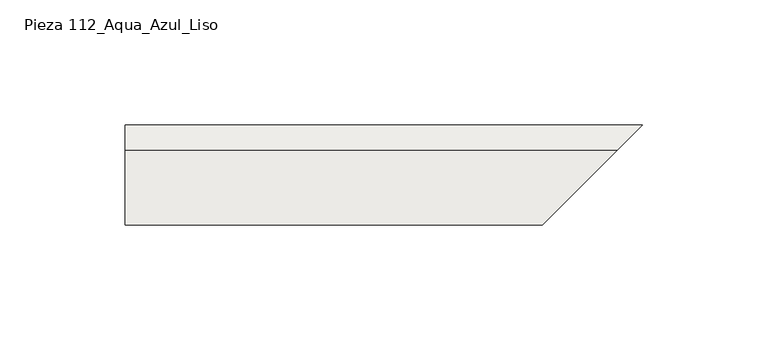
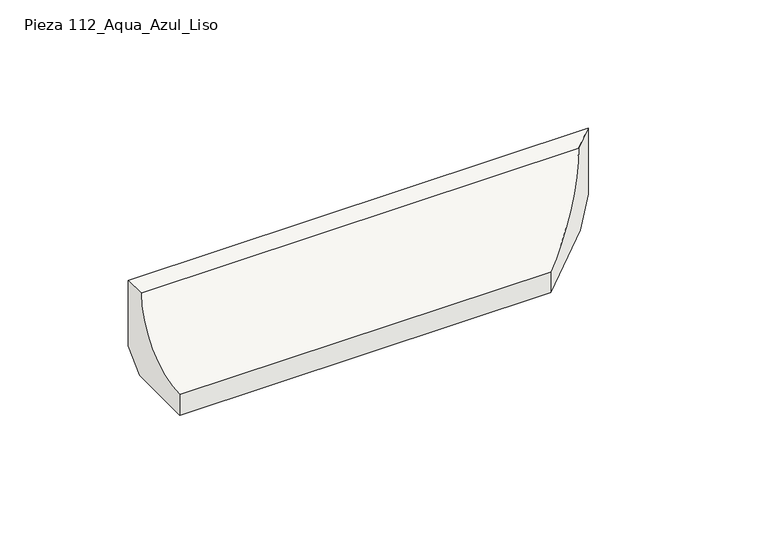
"""IFC4 building model written with IfcOpenShell, lengths in millimetres: slab geometry, ROSA GRES_112 (corte) : Pieza 112_Aqua_Azul_Liso."""

import ifcopenshell
import ifcopenshell.guid

model = None  # the IFC model being written
_history = None  # IfcOwnerHistory: only IFC2X3 demands one
_inside = {}  # id of a spatial element -> (the spatial element, [elements in it])
_under = {}  # id of a project, library or spatial element -> (it, [spatial elements below it])
_declared = {}  # id of a project -> (the project, [libraries it declares])
_typed = {}  # id of a type object -> (the type object, [elements of that type])
_made_of = {}  # id of a material, layer set ... -> (it, [elements and type objects made of it])


def new_model(schema):
    """Start an empty IFC model of exactly this schema.

    Asked for "IFC4X3", IfcOpenShell would pick the latest addendum, in which some entities
    have other attributes; the version numbers below select the first issue.
    IFC2X3 requires an IfcOwnerHistory on every rooted entity: one is made here for all.
    """
    global model, _history
    if schema == "IFC4X3":
        model = ifcopenshell.file(schema_version=(4, 3, 0, 0))
    else:
        model = ifcopenshell.file(schema=schema)
    _inside.clear()
    _under.clear()
    _declared.clear()
    _typed.clear()
    _made_of.clear()
    _history = None
    if model.schema == "IFC2X3":
        org = make("IfcOrganization", Name="unknown")
        user = make(
            "IfcPersonAndOrganization",
            ThePerson=make("IfcPerson", FamilyName="unknown"),
            TheOrganization=org,
        )
        app = make(
            "IfcApplication",
            ApplicationDeveloper=org,
            Version="unknown",
            ApplicationFullName="unknown",
            ApplicationIdentifier="unknown",
        )
        _history = make(
            "IfcOwnerHistory",
            OwningUser=user,
            OwningApplication=app,
            ChangeAction="ADDED",
            CreationDate=0,
        )
    return model


def make(cls, **values):
    """One entity of the class cls with the attributes given. An attribute that is None is left unset."""
    return model.create_entity(
        cls, **{name: value for name, value in values.items() if value is not None}
    )


def rooted(cls, **values):
    """An entity with a GlobalId (a new one), such as an element, a storey or a relation."""
    return make(cls, GlobalId=ifcopenshell.guid.new(), OwnerHistory=_history, **values)


def si_unit(unit_type, name, prefix=None):
    """IfcSIUnit, for example si_unit("LENGTHUNIT", "METRE", prefix="MILLI")."""
    return make("IfcSIUnit", UnitType=unit_type, Prefix=prefix, Name=name)


def assignment(units):
    """IfcUnitAssignment: the units of a project."""
    return None if units is None else make("IfcUnitAssignment", Units=units)


def point(xyz):
    """IfcCartesianPoint."""
    return None if xyz is None else make("IfcCartesianPoint", Coordinates=xyz)


def direction(xyz):
    """IfcDirection."""
    return None if xyz is None else make("IfcDirection", DirectionRatios=xyz)


def frame(location, z_axis=None, x_axis=None):
    """IfcAxis2Placement3D, a coordinate frame: its origin and axes. An axis left out is left unset."""
    return make(
        "IfcAxis2Placement3D",
        Location=point(location),
        Axis=direction(z_axis),
        RefDirection=direction(x_axis),
    )


def origin():
    """The frame at (0, 0, 0) with its axes left unset."""
    return frame((0.0, 0.0, 0.0))


def place(relative_to, where):
    """IfcLocalPlacement: puts the frame where relative to a parent placement (None: the world)."""
    return make(
        "IfcLocalPlacement", PlacementRelTo=relative_to, RelativePlacement=where
    )


def context(
    kind, dimensions, precision=None, world=None, true_north=None, identifier=None
):
    """IfcGeometricRepresentationContext, for example the 3D "Model" context."""
    return make(
        "IfcGeometricRepresentationContext",
        ContextIdentifier=identifier,
        ContextType=kind,
        CoordinateSpaceDimension=dimensions,
        Precision=precision,
        WorldCoordinateSystem=world,
        TrueNorth=true_north,
    )


def project(units=None, contexts=None):
    """IfcProject with its units and contexts."""
    return rooted(
        "IfcProject",
        Name="project",
        RepresentationContexts=contexts,
        UnitsInContext=assignment(units),
    )


def spatial(cls, under=None, at=None, **own):
    """A site, building, storey or space (cls), placed at a placement, below another one or the project."""
    s = rooted(cls, ObjectPlacement=at, **own)
    if under is not None:
        _under.setdefault(under.id(), (under, []))[1].append(s)
    return s


def polyline(points):
    """IfcPolyline through the points."""
    return make("IfcPolyline", Points=[point(p) for p in points])


def circle_curve(where, radius):
    """IfcCircle in the frame where."""
    return make("IfcCircle", Position=where, Radius=radius)


def ellipse_curve(where, semi_axis1, semi_axis2):
    """IfcEllipse in the frame where."""
    return make(
        "IfcEllipse", Position=where, SemiAxis1=semi_axis1, SemiAxis2=semi_axis2
    )


def shape(context_of_items, identifier, shape_type, items):
    """IfcShapeRepresentation: the items that make up one representation, for example the "Body"."""
    return make(
        "IfcShapeRepresentation",
        ContextOfItems=context_of_items,
        RepresentationIdentifier=identifier,
        RepresentationType=shape_type,
        Items=items,
    )


def source(mapping_origin, context_of_items, identifier, shape_type, items):
    """IfcRepresentationMap: a shape defined once, which mapped items show again and again."""
    return make(
        "IfcRepresentationMap",
        MappingOrigin=mapping_origin,
        MappedRepresentation=shape(context_of_items, identifier, shape_type, items),
    )


def transform(
    local_origin,
    x_axis=None,
    y_axis=None,
    z_axis=None,
    scale=None,
    scale2=None,
    scale3=None,
    uniform=True,
):
    """IfcCartesianTransformationOperator3D, or its non-uniform kind. x_axis, y_axis, z_axis: its Axis1, 2, 3."""
    if uniform:
        return make(
            "IfcCartesianTransformationOperator3D",
            Axis1=direction(x_axis),
            Axis2=direction(y_axis),
            LocalOrigin=point(local_origin),
            Scale=scale,
            Axis3=direction(z_axis),
        )
    return make(
        "IfcCartesianTransformationOperator3DnonUniform",
        Axis1=direction(x_axis),
        Axis2=direction(y_axis),
        LocalOrigin=point(local_origin),
        Scale=scale,
        Axis3=direction(z_axis),
        Scale2=scale2,
        Scale3=scale3,
    )


def mapped(mapping_source, mapping_target):
    """IfcMappedItem: shows the shape of a source again, moved by a transform."""
    return make(
        "IfcMappedItem", MappingSource=mapping_source, MappingTarget=mapping_target
    )


def made_of(thing, what):
    """Note that an element or type object is made of a material, layer set ...; save() writes the relation."""
    if what is not None:
        _made_of.setdefault(what.id(), (what, []))[1].append(thing)
    return thing


def element(
    cls,
    number,
    at=None,
    inside=None,
    cuts=None,
    type_object=None,
    material=None,
    context=None,
    identifier="Body",
    shape_type=None,
    held_by="IfcProductDefinitionShape",
    body=None,
    shapes=None,
    **own,
):
    """One element of the class cls, such as IfcWall. Its Tag is "e" and its number.

    at: its placement. inside: the storey or other place that contains it. cuts: it is an
    opening in that element (IfcRelVoidsElement). A single representation is given by context,
    identifier, shape_type and body (its items); several are given by shapes. held_by: the class
    of the entity that holds the representations. save() writes the other relations.
    """
    e = rooted(cls, Tag="e%d" % number, ObjectPlacement=at, **own)
    if body is not None:
        shapes = [shape(context, identifier, shape_type, body)]
    if shapes is not None:
        e.Representation = make(held_by, Representations=shapes)
    if inside is not None:
        _inside.setdefault(inside.id(), (inside, []))[1].append(e)
    if cuts is not None:
        rooted(
            "IfcRelVoidsElement", RelatingBuildingElement=cuts, RelatedOpeningElement=e
        )
    if type_object is not None:
        _typed.setdefault(type_object.id(), (type_object, []))[1].append(e)
    return made_of(e, material)


def aggregate(whole, parts):
    """IfcRelAggregates: a whole, such as a stair, and the parts it consists of."""
    return rooted("IfcRelAggregates", RelatingObject=whole, RelatedObjects=parts)


def save(model, path):
    """Write the relations noted so far, then the file.

    IfcRelAggregates (storeys below a building ...), IfcRelContainedInSpatialStructure (elements
    in a storey), IfcRelDefinesByType, IfcRelAssociatesMaterial and IfcRelDeclares: one each for
    every whole, place, type object, material and project.
    """
    for whole, parts in _under.values():
        aggregate(whole, parts)
    for where, things in _inside.values():
        rooted(
            "IfcRelContainedInSpatialStructure",
            RelatedElements=things,
            RelatingStructure=where,
        )
    for kind, things in _typed.values():
        rooted("IfcRelDefinesByType", RelatedObjects=things, RelatingType=kind)
    for what, things in _made_of.values():
        rooted("IfcRelAssociatesMaterial", RelatedObjects=things, RelatingMaterial=what)
    for by, libraries in _declared.values():
        rooted("IfcRelDeclares", RelatingContext=by, RelatedDefinitions=libraries)
    model.write(path)


def plane_surface(at):
    """IfcPlane: the flat surface through the origin of the frame at, square to its z axis."""
    return make("IfcPlane", Position=at)


def revolved_surface(curve, axis_point, axis_direction):
    """IfcSurfaceOfRevolution: the curve turned about the line through axis_point along axis_direction."""
    return make(
        "IfcSurfaceOfRevolution",
        SweptCurve=make("IfcArbitraryOpenProfileDef", ProfileType="CURVE", Curve=curve),
        AxisPosition=make("IfcAxis1Placement", Location=point(axis_point), Axis=direction(axis_direction)),
    )


def advanced_brep(points, edges, surfaces, faces):
    """IfcAdvancedBrep: a solid bounded by faces that lie on surfaces and meet in shared edges.

    An edge is (start, end): straight between two places in points (the first is 0);
    or (start, end, curve); or (start, end, curve, False) where it runs against its curve.
    A face is (place in surfaces, loops), or (place, loops, False) where it looks against
    its surface's normal. A loop lists edges by number (the first is 1), with a minus sign
    where the edge is run from its end to its start. The first loop is the outer one.
    """
    corners = [point(p) for p in points]
    vertices = [make("IfcVertexPoint", VertexGeometry=c) for c in corners]
    made = []
    for start, end, *more in edges:
        made.append(
            make(
                "IfcEdgeCurve",
                EdgeStart=vertices[start],
                EdgeEnd=vertices[end],
                EdgeGeometry=more[0] if more else make("IfcPolyline", Points=[corners[start], corners[end]]),
                SameSense=more[1] if len(more) > 1 else True,
            )
        )
    hull = []
    for where, loops, *sense in faces:
        bounds = []
        for j, loop in enumerate(loops):
            ring = [make("IfcOrientedEdge", EdgeElement=made[abs(k) - 1], Orientation=k > 0) for k in loop]
            bounds.append(
                make(
                    "IfcFaceOuterBound" if j == 0 else "IfcFaceBound",
                    Bound=make("IfcEdgeLoop", EdgeList=ring),
                    Orientation=True,
                )
            )
        hull.append(make("IfcAdvancedFace", Bounds=bounds, FaceSurface=surfaces[where], SameSense=sense[0] if sense else True))
    return make("IfcAdvancedBrep", Outer=make("IfcClosedShell", CfsFaces=hull))


def pieza_112_aqua_azul_liso_8a560736(model_context):
    return source(origin(), model_context, "Body", "AdvancedBrep", [
        advanced_brep(
        [(0.0, 0.0, 8.7114978), (0.0, -8.7114978, 0.0), (0.0, -40.0, 0.0), (0.0, -40.0, 9.9734114), (0.0, -9.9734114, 40.0), (0.0, 0.0, 40.0), (206.8, 0.0, 40.0), (206.8, 0.0, 8.7114978), (196.8265886, -9.9734114, 40.0), (166.8, -40.0, 9.9734114), (166.8, -40.0, 0.0), (198.0885022, -8.7114978, 0.0)],
        [
            (0, 1),
            (1, 2),
            (2, 3),
            (3, 4, circle_curve(frame((0.0, -39.9955547, 39.9955547), z_axis=(1.0, 0.0, 0.0), x_axis=(0.0, -1.0, 0.0)), 30.0221435)),
            (4, 5),
            (5, 0),
            (5, 6),
            (6, 7),
            (7, 0),
            (4, 8),
            (8, 6),
            (3, 9),
            (9, 8, ellipse_curve(frame((166.8044453, -39.9955547, 39.9955547), z_axis=(0.7071067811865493, -0.7071067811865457, 0.0), x_axis=(0.7071067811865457, 0.7071067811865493, 0.0)), 42.4577226, 30.0221435)),
            (2, 10),
            (10, 9),
            (1, 11),
            (11, 10),
            (7, 11),
        ],
        [
            plane_surface(frame((0.0, 0.0, 0.0), z_axis=(-1.0, 0.0, 0.0), x_axis=(0.0, 0.0, 1.0))),
            plane_surface(frame((0.0, 0.0, 8.7114978), z_axis=(0.0, 1.0, 0.0), x_axis=(1.0, 0.0, 0.0))),
            plane_surface(frame((0.0, 0.0, 40.0), z_axis=(0.0, 0.0, 1.0), x_axis=(1.0, 0.0, 0.0))),
            revolved_surface(polyline([(196.82658886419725, -70.0176982, 39.9955547), (0.0, -70.0176982, 39.9955547)]), (0.0, -39.9955547, 39.9955547), (1.0, 0.0, 0.0)),
            plane_surface(frame((0.0, -40.0, 9.9734114), z_axis=(0.0, -1.0, 0.0), x_axis=(1.0, 0.0, 0.0))),
            plane_surface(frame((0.0, -40.0, 0.0), z_axis=(0.0, 0.0, -1.0), x_axis=(1.0, 0.0, 0.0))),
            plane_surface(frame((0.0, -8.7114978, 0.0), z_axis=(0.0, 0.7071067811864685, -0.7071067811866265), x_axis=(1.0, 0.0, 0.0))),
            plane_surface(frame((166.3, -40.5, 104.9871832), z_axis=(0.7071067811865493, -0.7071067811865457, 0.0), x_axis=(0.0, 0.0, -1.0))),
        ],
        [
            (0, [[1, 2, 3, 4, 5, 6]]),
            (1, [[7, 8, 9, -6]]),
            (2, [[10, 11, -7, -5]]),
            (3, [[12, 13, -10, -4]]),
            (4, [[14, 15, -12, -3]]),
            (5, [[16, 17, -14, -2]]),
            (6, [[-9, 18, -16, -1]]),
            (7, [[-11, -13, -15, -17, -18, -8]]),
        ],
    ),
    ])


if __name__ == "__main__":
    model = new_model("IFC4")
    model_context = context("Model", 3, world=origin())
    ifc_project = project(units=[si_unit("LENGTHUNIT", "METRE", prefix="MILLI")], contexts=[model_context])
    site = spatial("IfcSite", under=ifc_project)
    building = spatial("IfcBuilding", under=site)
    placement = place(None, origin())
    pieza_112_aqua_azul_liso_shape = pieza_112_aqua_azul_liso_8a560736(model_context)
    element("IfcSlab", 1, ObjectType="ROSA GRES_112 (corte) : Pieza 112_Aqua_Azul_Liso", at=placement, inside=building, context=model_context, shape_type="MappedRepresentation", body=[
        mapped(pieza_112_aqua_azul_liso_shape, transform((0.0, 0.0, 0.0), x_axis=(1.0, 0.0, 0.0), y_axis=(0.0, 1.0, 0.0), z_axis=(0.0, 0.0, 1.0))),
    ])
    save(model, "model.ifc")
